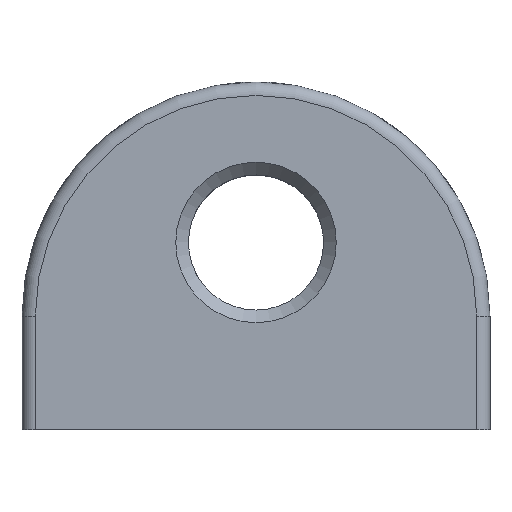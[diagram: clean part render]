
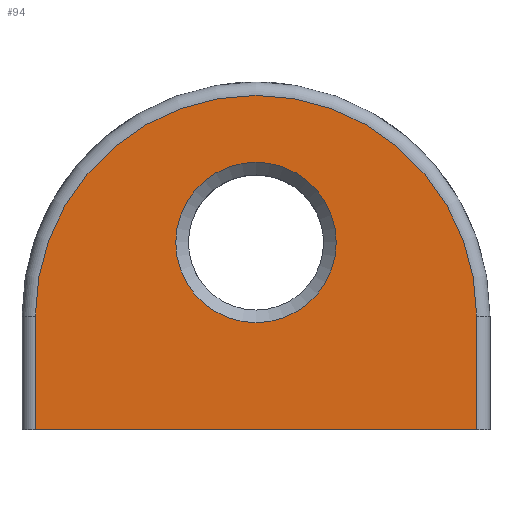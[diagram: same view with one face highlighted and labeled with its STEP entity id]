
A CAD part, top view. The second image highlights one B-rep face of the part: STEP entity #94.
In plain terms, the highlighted planar face has unit normal (0, 0, 1).
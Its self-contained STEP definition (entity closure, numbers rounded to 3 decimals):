
#94 = ADVANCED_FACE( '', ( #175, #176 ), #177, .F. );
#175 = FACE_BOUND( '', #300, .T. );
#176 = FACE_OUTER_BOUND( '', #301, .T. );
#177 = PLANE( '', #302 );
#300 = EDGE_LOOP( '', ( #529 ) );
#301 = EDGE_LOOP( '', ( #530, #531, #532, #533 ) );
#302 = AXIS2_PLACEMENT_3D( '', #534, #535, #536 );
#529 = ORIENTED_EDGE( '', *, *, #788, .T. );
#530 = ORIENTED_EDGE( '', *, *, #787, .F. );
#531 = ORIENTED_EDGE( '', *, *, #767, .F. );
#532 = ORIENTED_EDGE( '', *, *, #789, .T. );
#533 = ORIENTED_EDGE( '', *, *, #777, .T. );
#534 = CARTESIAN_POINT( '', ( -16.5, 8.5, 6. ) );
#535 = DIRECTION( '', ( 0., 0., -1. ) );
#536 = DIRECTION( '', ( -1., 0., 0. ) );
#767 = EDGE_CURVE( '', #899, #901, #902, .T. );
#777 = EDGE_CURVE( '', #921, #919, #922, .T. );
#787 = EDGE_CURVE( '', #901, #919, #934, .T. );
#788 = EDGE_CURVE( '', #935, #935, #936, .T. );
#789 = EDGE_CURVE( '', #899, #921, #937, .T. );
#899 = VERTEX_POINT( '', #1218 );
#901 = VERTEX_POINT( '', #1220 );
#902 = CIRCLE( '', #1221, 16.5 );
#919 = VERTEX_POINT( '', #1241 );
#921 = VERTEX_POINT( '', #1243 );
#922 = LINE( '', #1244, #1245 );
#934 = LINE( '', #1262, #1263 );
#935 = VERTEX_POINT( '', #1264 );
#936 = CIRCLE( '', #1265, 6. );
#937 = LINE( '', #1266, #1267 );
#1218 = CARTESIAN_POINT( '', ( -16.5, 8.5, 6. ) );
#1220 = CARTESIAN_POINT( '', ( 16.5, 8.5, 6. ) );
#1221 = AXIS2_PLACEMENT_3D( '', #1482, #1483, #1484 );
#1241 = CARTESIAN_POINT( '', ( 16.5, 0., 6. ) );
#1243 = CARTESIAN_POINT( '', ( -16.5, 0., 6. ) );
#1244 = CARTESIAN_POINT( '', ( -16.5, 0., 6. ) );
#1245 = VECTOR( '', #1506, 1000. );
#1262 = CARTESIAN_POINT( '', ( 16.5, 8.5, 6. ) );
#1263 = VECTOR( '', #1524, 1000. );
#1264 = CARTESIAN_POINT( '', ( -6., 14., 6. ) );
#1265 = AXIS2_PLACEMENT_3D( '', #1525, #1526, #1527 );
#1266 = CARTESIAN_POINT( '', ( -16.5, 8.5, 6. ) );
#1267 = VECTOR( '', #1528, 1000. );
#1482 = CARTESIAN_POINT( '', ( 0., 8.5, 6. ) );
#1483 = DIRECTION( '', ( 0., 0., -1. ) );
#1484 = DIRECTION( '', ( -1., 0., 0. ) );
#1506 = DIRECTION( '', ( 1., 0., 0. ) );
#1524 = DIRECTION( '', ( 0., -1., 0. ) );
#1525 = CARTESIAN_POINT( '', ( 0., 14., 6. ) );
#1526 = DIRECTION( '', ( 0., 0., -1. ) );
#1527 = DIRECTION( '', ( -1., 0., 0. ) );
#1528 = DIRECTION( '', ( 0., -1., 0. ) );
